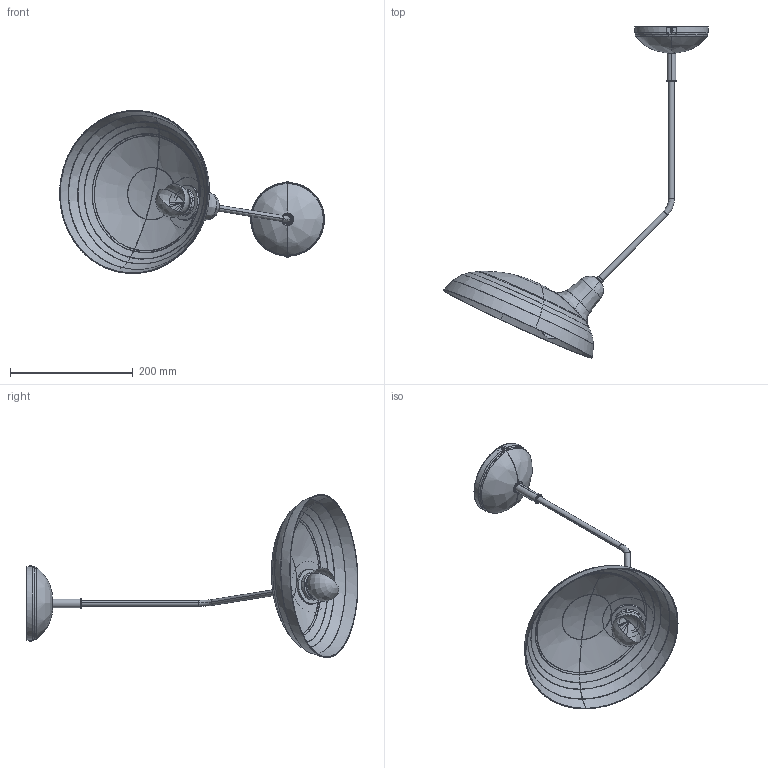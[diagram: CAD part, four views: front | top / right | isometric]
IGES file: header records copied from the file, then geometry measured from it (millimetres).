
Start section: SolidWorks IGES file using analytic representation for surfaces
Global section: file name: E:\_DESIGN\Aura\Aura I zwis 6866\Aura I 6866.IGS; native system: SolidWorks 2016; preprocessor: SolidWorks 2016; author: Asia; date: 160707.132407; units: millimetre
Bounding box: 431.21 x 540.72 x 265.68 mm (x, y, z)
Surface area: 287742.5 mm2 (no closed solid volume)
Topology: 0 solids, 0 shells, 532 faces, 7124 edges, 7121 vertices
Faces by surface type: revolution 310, bspline 222
